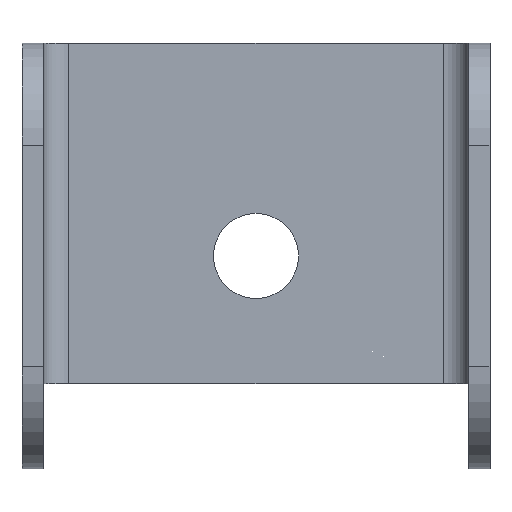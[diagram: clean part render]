
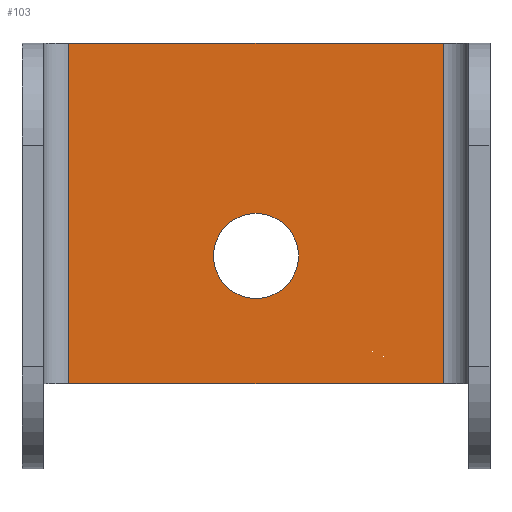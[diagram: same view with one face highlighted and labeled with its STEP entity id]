
A CAD part, front view. The second image highlights one B-rep face of the part: STEP entity #103.
In plain terms, the highlighted planar face has unit normal (0, -1, 0).
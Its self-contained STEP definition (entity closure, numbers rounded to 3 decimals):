
#103 = ADVANCED_FACE( '', ( #210, #211 ), #212, .T. );
#210 = FACE_OUTER_BOUND( '', #317, .T. );
#211 = FACE_BOUND( '', #318, .T. );
#212 = PLANE( '', #319 );
#317 = EDGE_LOOP( '', ( #575, #576, #577, #578 ) );
#318 = EDGE_LOOP( '', ( #579 ) );
#319 = AXIS2_PLACEMENT_3D( '', #580, #581, #582 );
#575 = ORIENTED_EDGE( '', *, *, #741, .F. );
#576 = ORIENTED_EDGE( '', *, *, #662, .F. );
#577 = ORIENTED_EDGE( '', *, *, #738, .T. );
#578 = ORIENTED_EDGE( '', *, *, #679, .F. );
#579 = ORIENTED_EDGE( '', *, *, #745, .F. );
#580 = CARTESIAN_POINT( '', ( 0., -2.5, 0. ) );
#581 = DIRECTION( '', ( 0., -1., 0. ) );
#582 = DIRECTION( '', ( 0., 0., -1. ) );
#662 = EDGE_CURVE( '', #796, #797, #798, .T. );
#679 = EDGE_CURVE( '', #826, #828, #829, .T. );
#738 = EDGE_CURVE( '', #796, #828, #912, .T. );
#741 = EDGE_CURVE( '', #797, #826, #915, .T. );
#745 = EDGE_CURVE( '', #919, #919, #920, .T. );
#796 = VERTEX_POINT( '', #983 );
#797 = VERTEX_POINT( '', #984 );
#798 = LINE( '', #985, #986 );
#826 = VERTEX_POINT( '', #1022 );
#828 = VERTEX_POINT( '', #1024 );
#829 = LINE( '', #1025, #1026 );
#912 = LINE( '', #1142, #1143 );
#915 = LINE( '', #1147, #1148 );
#919 = VERTEX_POINT( '', #1152 );
#920 = CIRCLE( '', #1153, 5. );
#983 = CARTESIAN_POINT( '', ( 47., -2.5, 50. ) );
#984 = CARTESIAN_POINT( '', ( 47., -2.5, 10. ) );
#985 = CARTESIAN_POINT( '', ( 47., -2.5, 50. ) );
#986 = VECTOR( '', #1197, 1000. );
#1022 = CARTESIAN_POINT( '', ( 3., -2.5, 10. ) );
#1024 = CARTESIAN_POINT( '', ( 3., -2.5, 50. ) );
#1025 = CARTESIAN_POINT( '', ( 3., -2.5, 0. ) );
#1026 = VECTOR( '', #1221, 1000. );
#1142 = CARTESIAN_POINT( '', ( 50., -2.5, 50. ) );
#1143 = VECTOR( '', #1291, 1000. );
#1147 = CARTESIAN_POINT( '', ( 0., -2.5, 10. ) );
#1148 = VECTOR( '', #1293, 1000. );
#1152 = CARTESIAN_POINT( '', ( 25., -2.5, 20. ) );
#1153 = AXIS2_PLACEMENT_3D( '', #1297, #1298, #1299 );
#1197 = DIRECTION( '', ( 0., 0., -1. ) );
#1221 = DIRECTION( '', ( 0., 0., 1. ) );
#1291 = DIRECTION( '', ( -1., 0., 0. ) );
#1293 = DIRECTION( '', ( -1., 0., 0. ) );
#1297 = CARTESIAN_POINT( '', ( 25., -2.5, 25. ) );
#1298 = DIRECTION( '', ( 0., -1., 0. ) );
#1299 = DIRECTION( '', ( 0., 0., -1. ) );
